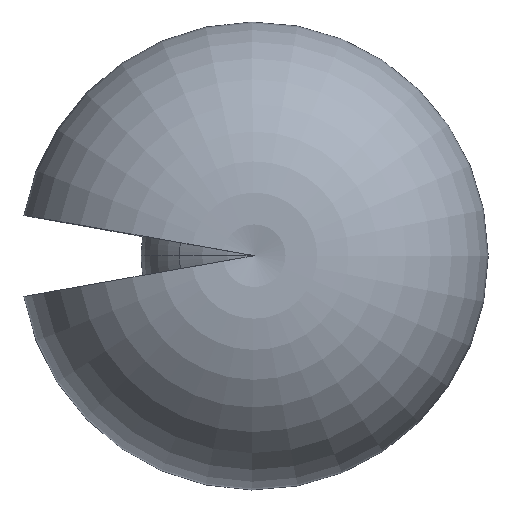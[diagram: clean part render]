
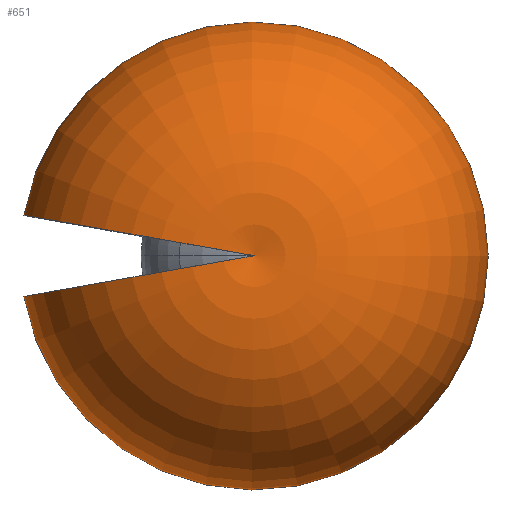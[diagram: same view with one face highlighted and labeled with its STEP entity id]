
A CAD part, top view. The second image highlights one B-rep face of the part: STEP entity #651.
In plain terms, the highlighted toroidal (fillet/blend) face has major radius 690 mm and minor radius 2815.01 mm.
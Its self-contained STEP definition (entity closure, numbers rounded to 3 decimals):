
#6 = EDGE_CURVE ( 'NONE', #550, #450, #83, .T. ) ;
#26 = EDGE_LOOP ( 'NONE', ( #406, #132, #264 ) ) ;
#35 = CARTESIAN_POINT ( 'NONE',  ( -679.517, 119.817, 530. ) ) ;
#56 = CARTESIAN_POINT ( 'NONE',  ( -1627.68, 287.004, -2115.244 ) ) ;
#83 = CIRCLE ( 'NONE', #348, 2815.01 ) ;
#89 = DIRECTION ( 'NONE',  ( 0.174, 0.985, 0. ) ) ;
#107 = CIRCLE ( 'NONE', #604, 2815.01 ) ;
#132 = ORIENTED_EDGE ( 'NONE', *, *, #6, .F. ) ;
#142 = DIRECTION ( 'NONE',  ( 0., 0., 1. ) ) ;
#173 = CARTESIAN_POINT ( 'NONE',  ( 0., 0., -2115.244 ) ) ;
#197 = VERTEX_POINT ( 'NONE', #56 ) ;
#216 = CARTESIAN_POINT ( 'NONE',  ( 0., 0., 530. ) ) ;
#223 = DIRECTION ( 'NONE',  ( -1., 0., 0. ) ) ;
#264 = ORIENTED_EDGE ( 'NONE', *, *, #743, .F. ) ;
#266 = AXIS2_PLACEMENT_3D ( 'NONE', #173, #405, #223 ) ;
#279 = TOROIDAL_SURFACE ( 'NONE', #301, 690., 2815.01 ) ;
#301 = AXIS2_PLACEMENT_3D ( 'NONE', #216, #449, #605 ) ;
#319 = DIRECTION ( 'NONE',  ( -0.174, 0.985, 0. ) ) ;
#325 = DIRECTION ( 'NONE',  ( 0., 0., 1. ) ) ;
#348 = AXIS2_PLACEMENT_3D ( 'NONE', #609, #319, #142 ) ;
#373 = CARTESIAN_POINT ( 'NONE',  ( -1627.68, -287.004, -2115.244 ) ) ;
#376 = FACE_OUTER_BOUND ( 'NONE', #26, .T. ) ;
#405 = DIRECTION ( 'NONE',  ( 0., 0., -1. ) ) ;
#406 = ORIENTED_EDGE ( 'NONE', *, *, #420, .T. ) ;
#420 = EDGE_CURVE ( 'NONE', #197, #450, #107, .T. ) ;
#449 = DIRECTION ( 'NONE',  ( 0., 0., -1. ) ) ;
#450 = VERTEX_POINT ( 'NONE', #501 ) ;
#501 = CARTESIAN_POINT ( 'NONE',  ( 0., 0., 3259.135 ) ) ;
#550 = VERTEX_POINT ( 'NONE', #373 ) ;
#604 = AXIS2_PLACEMENT_3D ( 'NONE', #35, #89, #325 ) ;
#605 = DIRECTION ( 'NONE',  ( -1., 0., 0. ) ) ;
#609 = CARTESIAN_POINT ( 'NONE',  ( -679.517, -119.817, 530. ) ) ;
#651 = ADVANCED_FACE ( 'NONE', ( #376 ), #279, .T. ) ;
#663 = CIRCLE ( 'NONE', #266, 1652.79 ) ;
#743 = EDGE_CURVE ( 'NONE', #197, #550, #663, .T. ) ;
